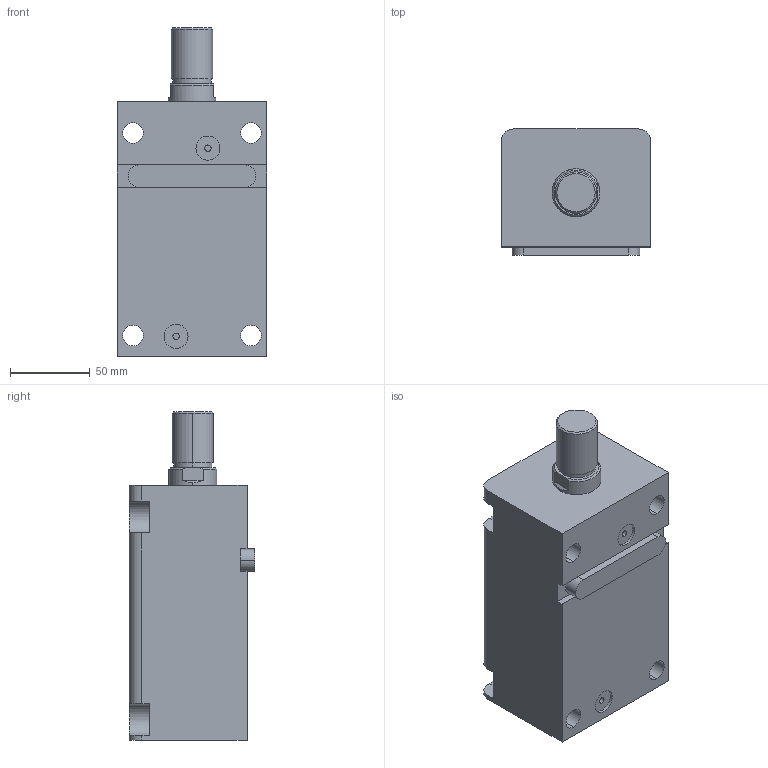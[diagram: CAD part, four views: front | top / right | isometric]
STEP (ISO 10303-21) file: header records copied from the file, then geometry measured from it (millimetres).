
FILE_DESCRIPTION (( 'STEP AP203' ), '1' );
FILE_NAME ('HTB-LAM50-100W.STEP', '2023-03-20T01:16:38', ( '微软用户' ), ( '微软中国' ), 'SwSTEP 2.0', 'SolidWorks 2012', '' );
FILE_SCHEMA (( 'CONFIG_CONTROL_DESIGN' ));
Length unit declared in the file: millimetre
Products named in the file (4): HTB-LAM50-100W; HTB-LWM50-瑩; HTB-LAM50-100W活塞杆; HTB-LAM50-100掛极
Assembly tree (3 placements, depth 2):
  HTB-LAM50-100W
    HTB-LAM50-100掛极
    HTB-LAM50-100W活塞杆
    HTB-LWM50-瑩
Bounding box: 94 x 79 x 206 mm (x, y, z)
Volume: 962196.4 mm3; surface area: 129413.9 mm2
Topology: 3 solids, 3 shells, 90 faces, 219 edges, 144 vertices
Faces by surface type: cylinder 41, plane 41, cone 4, torus 4
Entity records: 3107 total; most frequent: DIRECTION 497, CARTESIAN_POINT 487, ORIENTED_EDGE 438, EDGE_CURVE 219, AXIS2_PLACEMENT_3D 190, VERTEX_POINT 144, LINE 117, VECTOR 117
